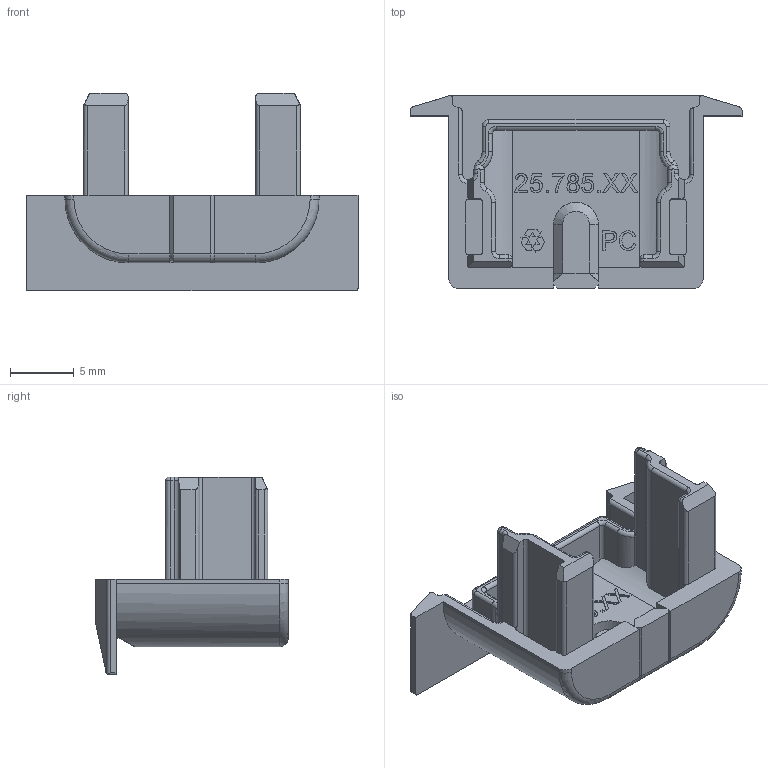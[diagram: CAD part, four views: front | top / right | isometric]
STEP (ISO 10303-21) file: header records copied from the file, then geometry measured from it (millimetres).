
FILE_DESCRIPTION (( 'STEP AP203' ), '1' );
FILE_NAME ('Endkappen_ChannelLine_C2_Typ2_24.STEP', '2024-11-29T04:52:46', ( '' ), ( '' ), 'SwSTEP 2.0', 'SolidWorks 2023', '' );
FILE_SCHEMA (( 'CONFIG_CONTROL_DESIGN' ));
Length unit declared in the file: millimetre
Products named in the file (1): Endkappen_ChannelLine_C2_Typ2_24
Bounding box: 26 x 15.1 x 15.5 mm (x, y, z)
Volume: 978.6 mm3; surface area: 1783.7 mm2
Topology: 1 solids, 1 shells, 397 faces, 1068 edges, 686 vertices
Faces by surface type: plane 204, cylinder 91, bspline 68, torus 26, cone 6, sphere 2
Entity records: 15875 total; most frequent: CARTESIAN_POINT 6350, ORIENTED_EDGE 2128, DIRECTION 1712, EDGE_CURVE 1064, VERTEX_POINT 686, LINE 676, VECTOR 676, AXIS2_PLACEMENT_3D 518
